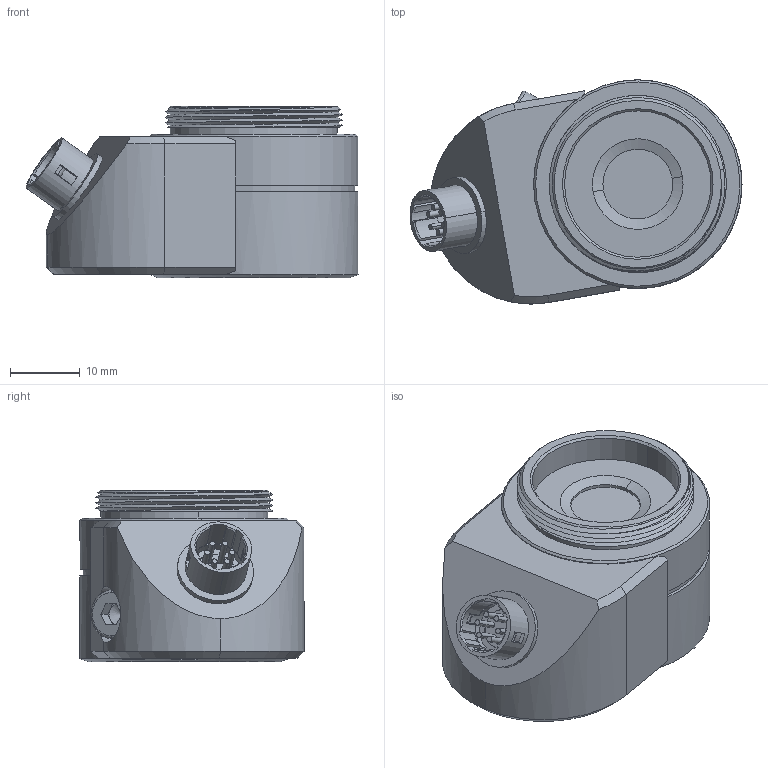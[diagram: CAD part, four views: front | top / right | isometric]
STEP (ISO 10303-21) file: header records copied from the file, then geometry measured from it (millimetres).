
FILE_DESCRIPTION (( 'STEP AP214' ), '1' );
FILE_NAME ('132-314-00.STEP', '2014-03-12T07:50:26', ( 'DBO' ), ( '' ), 'SwSTEP 2.0', 'SolidWorks 2013', '' );
FILE_SCHEMA (( 'AUTOMOTIVE_DESIGN' ));
Length unit declared in the file: millimetre
Products named in the file (1): 132-314-00
Bounding box: 47.62 x 32.14 x 24.6 mm (x, y, z)
Volume: 15104.1 mm3; surface area: 12403.3 mm2
Topology: 11 solids, 12 shells, 1342 faces, 3805 edges, 2475 vertices
Faces by surface type: plane 804, cylinder 363, cone 78, bspline 73, torus 18, sphere 6
Entity records: 64774 total; most frequent: CARTESIAN_POINT 15302, ORIENTED_EDGE 7592, DIRECTION 6766, EDGE_CURVE 3796, VECTOR 2622, LINE 2622, VERTEX_POINT 2475, AXIS2_PLACEMENT_3D 2072
